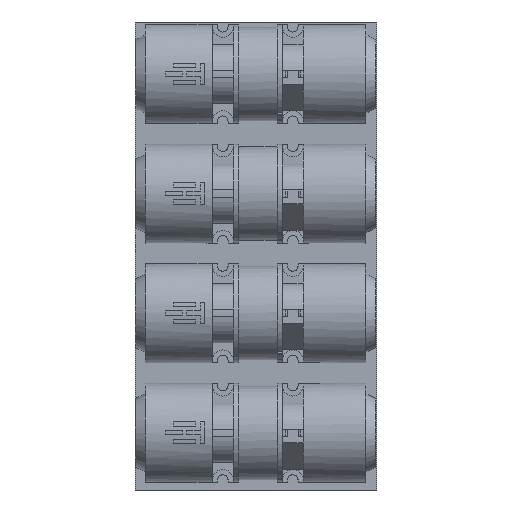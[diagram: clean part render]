
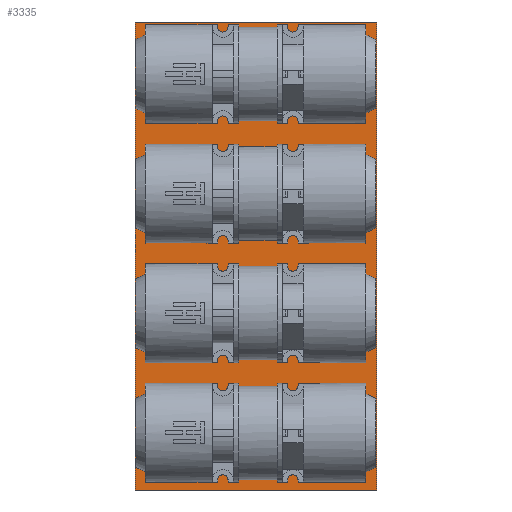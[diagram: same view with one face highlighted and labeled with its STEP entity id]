
A CAD part, front view. The second image highlights one B-rep face of the part: STEP entity #3335.
In plain terms, the highlighted planar face has unit normal (0, -1, 0).
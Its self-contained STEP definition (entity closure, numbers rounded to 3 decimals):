
#300=FACE_OUTER_BOUND('',#482,.T.);
#482=EDGE_LOOP('',(#2231,#2232,#2233,#2234));
#670=LINE('',#4929,#1033);
#674=LINE('',#4937,#1037);
#677=LINE('',#4943,#1040);
#680=LINE('',#4948,#1043);
#1033=VECTOR('',#3886,10.);
#1037=VECTOR('',#3892,10.);
#1040=VECTOR('',#3897,10.);
#1043=VECTOR('',#3902,10.);
#1396=VERTEX_POINT('',#4927);
#1397=VERTEX_POINT('',#4928);
#1400=VERTEX_POINT('',#4936);
#1402=VERTEX_POINT('',#4942);
#1716=EDGE_CURVE('',#1396,#1397,#670,.T.);
#1720=EDGE_CURVE('',#1397,#1400,#674,.T.);
#1723=EDGE_CURVE('',#1400,#1402,#677,.T.);
#1726=EDGE_CURVE('',#1402,#1396,#680,.T.);
#2231=ORIENTED_EDGE('',*,*,#1726,.T.);
#2232=ORIENTED_EDGE('',*,*,#1716,.T.);
#2233=ORIENTED_EDGE('',*,*,#1720,.T.);
#2234=ORIENTED_EDGE('',*,*,#1723,.T.);
#3206=PLANE('',#3545);
#3335=ADVANCED_FACE('',(#300),#3206,.F.);
#3545=AXIS2_PLACEMENT_3D('',#4951,#3906,#3907);
#3886=DIRECTION('',(0.,0.,-1.));
#3892=DIRECTION('',(1.,0.,0.));
#3897=DIRECTION('',(0.,0.,1.));
#3902=DIRECTION('',(-1.,0.,0.));
#3906=DIRECTION('center_axis',(0.,1.,0.));
#3907=DIRECTION('ref_axis',(1.,0.,0.));
#4927=CARTESIAN_POINT('',(0.,0.,45.));
#4928=CARTESIAN_POINT('',(0.,0.,0.));
#4929=CARTESIAN_POINT('',(0.,0.,45.));
#4936=CARTESIAN_POINT('',(23.2,0.,0.));
#4937=CARTESIAN_POINT('',(0.,0.,0.));
#4942=CARTESIAN_POINT('',(23.2,0.,45.));
#4943=CARTESIAN_POINT('',(23.2,0.,0.));
#4948=CARTESIAN_POINT('',(23.2,0.,45.));
#4951=CARTESIAN_POINT('Origin',(11.6,0.,22.5));
